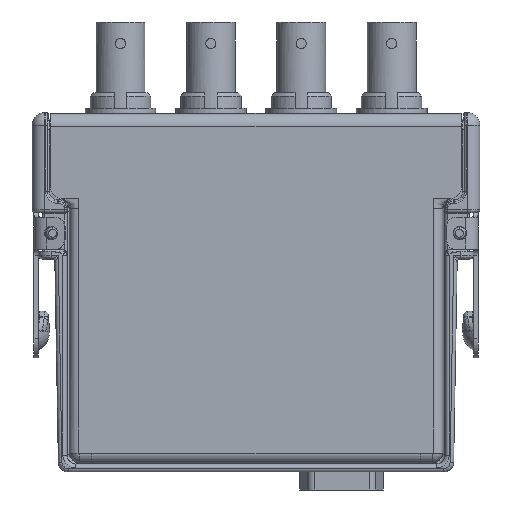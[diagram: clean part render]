
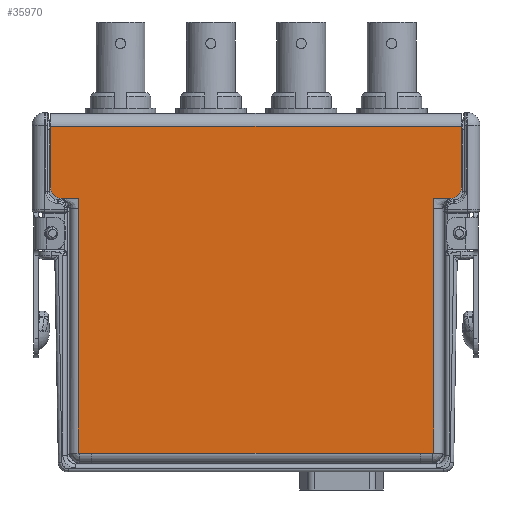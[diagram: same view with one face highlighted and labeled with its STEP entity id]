
A CAD part, left-side view. The second image highlights one B-rep face of the part: STEP entity #35970.
In plain terms, the highlighted planar face has unit normal (-1, 0, 0).
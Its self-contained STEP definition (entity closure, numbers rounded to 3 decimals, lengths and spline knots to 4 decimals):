
#1659=DIRECTION('',(0.,-1.,0.));
#1660=VECTOR('',#1659,2.543);
#1661=CARTESIAN_POINT('',(-0.4475,1.2715,0.146));
#1662=LINE('',#1661,#1660);
#1671=DIRECTION('',(0.,0.,-1.));
#1672=VECTOR('',#1671,0.476);
#1673=CARTESIAN_POINT('',(-0.4475,1.5895,2.676));
#1674=LINE('',#1673,#1672);
#1675=DIRECTION('',(0.,0.,1.));
#1676=VECTOR('',#1675,0.476);
#1677=CARTESIAN_POINT('',(-0.4475,-1.5895,2.2));
#1678=LINE('',#1677,#1676);
#1679=DIRECTION('',(0.,0.,1.));
#1680=VECTOR('',#1679,0.079);
#1681=CARTESIAN_POINT('',(-0.4475,-1.3765,2.041));
#1682=LINE('',#1681,#1680);
#1683=DIRECTION('',(0.,-1.,0.));
#1684=VECTOR('',#1683,0.105);
#1685=CARTESIAN_POINT('',(-0.4475,-1.2715,0.146));
#1686=LINE('',#1685,#1684);
#1687=DIRECTION('',(0.,-1.,0.));
#1688=VECTOR('',#1687,0.105);
#1689=CARTESIAN_POINT('',(-0.4475,1.3765,0.146));
#1690=LINE('',#1689,#1688);
#1691=DIRECTION('',(0.,0.,1.));
#1692=VECTOR('',#1691,0.079);
#1693=CARTESIAN_POINT('',(-0.4475,1.3765,2.041));
#1694=LINE('',#1693,#1692);
#1708=CARTESIAN_POINT('',(-0.4475,1.5095,2.2));
#1709=DIRECTION('',(-1.,0.,0.));
#1710=DIRECTION('',(0.,1.,0.));
#1711=AXIS2_PLACEMENT_3D('',#1708,#1709,#1710);
#1713=DIRECTION('',(0.,-1.,0.));
#1714=VECTOR('',#1713,0.133);
#1715=CARTESIAN_POINT('',(-0.4475,1.5095,2.12));
#1716=LINE('',#1715,#1714);
#1733=DIRECTION('',(0.,0.,1.));
#1734=VECTOR('',#1733,1.895);
#1735=CARTESIAN_POINT('',(-0.4475,1.3765,0.146));
#1736=LINE('',#1735,#1734);
#2006=DIRECTION('',(0.,0.,1.));
#2007=VECTOR('',#2006,1.895);
#2008=CARTESIAN_POINT('',(-0.4475,-1.3765,0.146));
#2009=LINE('',#2008,#2007);
#2041=DIRECTION('',(0.,-1.,0.));
#2042=VECTOR('',#2041,0.133);
#2043=CARTESIAN_POINT('',(-0.4475,-1.3765,2.12));
#2044=LINE('',#2043,#2042);
#2058=CARTESIAN_POINT('',(-0.4475,-1.5095,2.2));
#2059=DIRECTION('',(-1.,0.,0.));
#2060=DIRECTION('',(0.,0.,-1.));
#2061=AXIS2_PLACEMENT_3D('',#2058,#2059,#2060);
#2080=DIRECTION('',(0.,-1.,0.));
#2081=VECTOR('',#2080,3.179);
#2082=CARTESIAN_POINT('',(-0.4475,1.5895,2.676));
#2083=LINE('',#2082,#2081);
#34157=CARTESIAN_POINT('',(-0.4475,-1.5895,2.676));
#34158=VERTEX_POINT('',#34157);
#34159=CARTESIAN_POINT('',(-0.4475,1.5895,2.676));
#34160=VERTEX_POINT('',#34159);
#34189=CARTESIAN_POINT('',(-0.4475,1.2715,0.146));
#34190=CARTESIAN_POINT('',(-0.4475,-1.2715,0.146));
#34191=VERTEX_POINT('',#34189);
#34192=VERTEX_POINT('',#34190);
#34201=CARTESIAN_POINT('',(-0.4475,-1.3765,0.146));
#34202=VERTEX_POINT('',#34201);
#34213=CARTESIAN_POINT('',(-0.4475,1.3765,0.146));
#34214=VERTEX_POINT('',#34213);
#34262=CARTESIAN_POINT('',(-0.4475,1.5095,2.12));
#34264=VERTEX_POINT('',#34262);
#34267=CARTESIAN_POINT('',(-0.4475,1.5895,2.2));
#34268=VERTEX_POINT('',#34267);
#34270=CARTESIAN_POINT('',(-0.4475,-1.5895,2.2));
#34272=VERTEX_POINT('',#34270);
#34275=CARTESIAN_POINT('',(-0.4475,-1.5095,2.12));
#34276=VERTEX_POINT('',#34275);
#34289=CARTESIAN_POINT('',(-0.4475,-1.3765,2.041));
#34290=VERTEX_POINT('',#34289);
#34293=CARTESIAN_POINT('',(-0.4475,-1.3765,2.12));
#34294=VERTEX_POINT('',#34293);
#34301=CARTESIAN_POINT('',(-0.4475,1.3765,2.041));
#34302=CARTESIAN_POINT('',(-0.4475,1.3765,2.12));
#34303=VERTEX_POINT('',#34301);
#34304=VERTEX_POINT('',#34302);
#35937=CARTESIAN_POINT('',(-0.4475,0.,1.421));
#35938=DIRECTION('',(-1.,0.,0.));
#35939=DIRECTION('',(0.,1.,0.));
#35940=AXIS2_PLACEMENT_3D('',#35937,#35938,#35939);
#35941=PLANE('',#35940);
#35943=ORIENTED_EDGE('',*,*,#35942,.F.);
#35945=ORIENTED_EDGE('',*,*,#35944,.F.);
#35947=ORIENTED_EDGE('',*,*,#35946,.T.);
#35949=ORIENTED_EDGE('',*,*,#35948,.F.);
#35951=ORIENTED_EDGE('',*,*,#35950,.F.);
#35953=ORIENTED_EDGE('',*,*,#35952,.F.);
#35955=ORIENTED_EDGE('',*,*,#35954,.F.);
#35957=ORIENTED_EDGE('',*,*,#35956,.F.);
#35958=ORIENTED_EDGE('',*,*,#35927,.F.);
#35959=ORIENTED_EDGE('',*,*,#35902,.F.);
#35961=ORIENTED_EDGE('',*,*,#35960,.F.);
#35963=ORIENTED_EDGE('',*,*,#35962,.T.);
#35965=ORIENTED_EDGE('',*,*,#35964,.T.);
#35967=ORIENTED_EDGE('',*,*,#35966,.F.);
#35968=EDGE_LOOP('',(#35943,#35945,#35947,#35949,#35951,#35953,#35955,#35957,
#35958,#35959,#35961,#35963,#35965,#35967));
#35969=FACE_OUTER_BOUND('',#35968,.F.);
#35970=ADVANCED_FACE('',(#35969),#35941,.T.);
#1712=CIRCLE('',#1711,0.08);
#2062=CIRCLE('',#2061,0.08);
#35902=EDGE_CURVE('',#34191,#34192,#1662,.T.);
#35927=EDGE_CURVE('',#34192,#34202,#1686,.T.);
#35942=EDGE_CURVE('',#34268,#34264,#1712,.T.);
#35944=EDGE_CURVE('',#34160,#34268,#1674,.T.);
#35946=EDGE_CURVE('',#34160,#34158,#2083,.T.);
#35948=EDGE_CURVE('',#34272,#34158,#1678,.T.);
#35950=EDGE_CURVE('',#34276,#34272,#2062,.T.);
#35952=EDGE_CURVE('',#34294,#34276,#2044,.T.);
#35954=EDGE_CURVE('',#34290,#34294,#1682,.T.);
#35956=EDGE_CURVE('',#34202,#34290,#2009,.T.);
#35960=EDGE_CURVE('',#34214,#34191,#1690,.T.);
#35962=EDGE_CURVE('',#34214,#34303,#1736,.T.);
#35964=EDGE_CURVE('',#34303,#34304,#1694,.T.);
#35966=EDGE_CURVE('',#34264,#34304,#1716,.T.);
